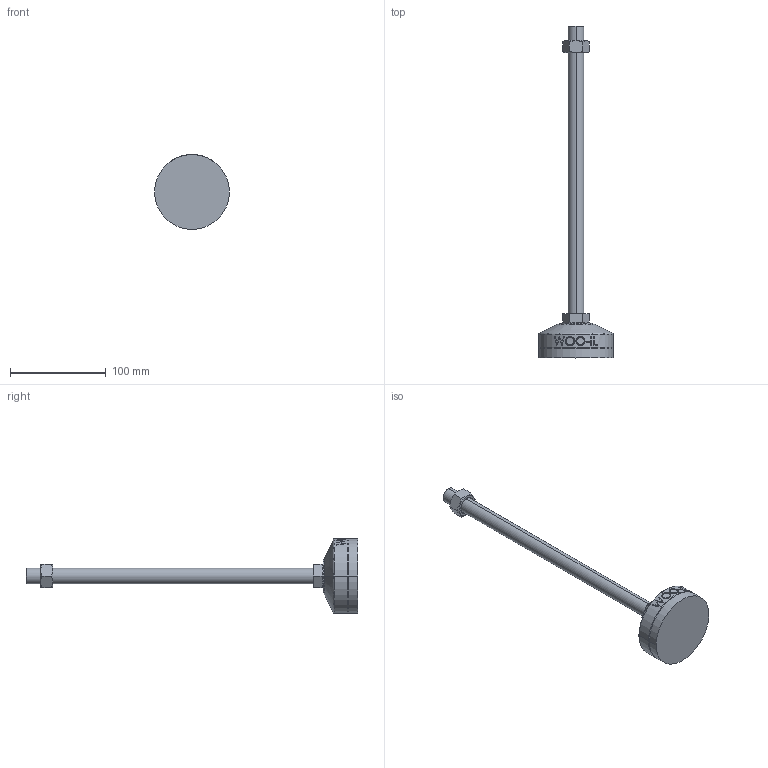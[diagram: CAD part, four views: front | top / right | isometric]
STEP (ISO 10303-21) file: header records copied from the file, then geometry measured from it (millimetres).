
FILE_DESCRIPTION (( 'STEP AP214' ), '1' );
FILE_NAME ('MFZR78-M16-300.step', '2021-03-29T06:58:04', ( '' ), ( '' ), 'SwSTEP 2.0', 'SolidWorks 2019', '' );
FILE_SCHEMA (( 'AUTOMOTIVE_DESIGN' ));
Length unit declared in the file: millimetre
Products named in the file (2): MFZR78-M16-300
Bounding box: 78 x 346 x 78 mm (x, y, z)
Volume: 218180.9 mm3; surface area: 44791.1 mm2
Topology: 4 solids, 4 shells, 103 faces, 235 edges, 150 vertices
Faces by surface type: plane 49, cylinder 18, bspline 16, cone 14, torus 6
Entity records: 4499 total; most frequent: CARTESIAN_POINT 2226, ORIENTED_EDGE 470, DIRECTION 417, EDGE_CURVE 235, AXIS2_PLACEMENT_3D 159, VERTEX_POINT 150, EDGE_LOOP 115, FACE_OUTER_BOUND 103
